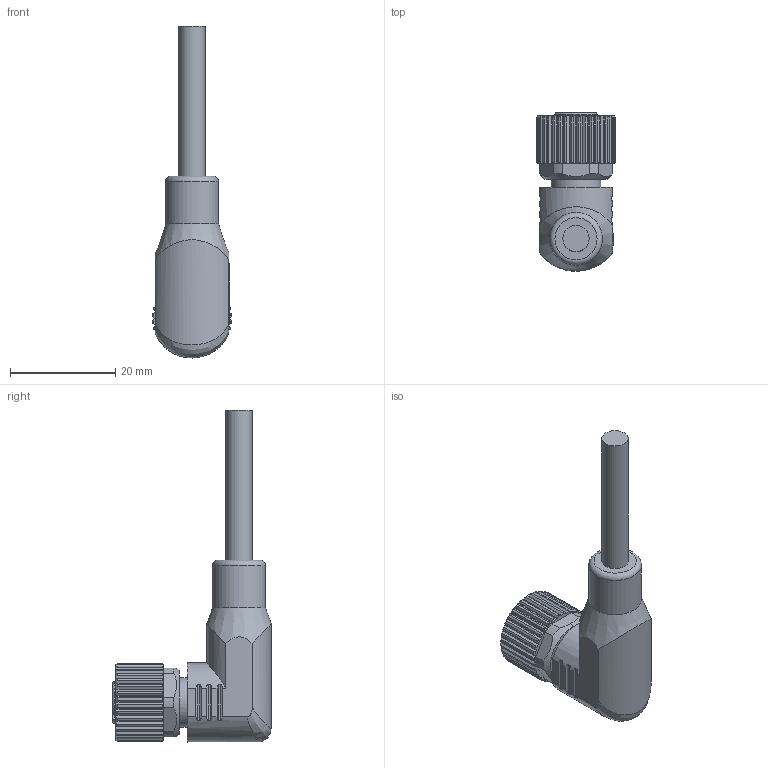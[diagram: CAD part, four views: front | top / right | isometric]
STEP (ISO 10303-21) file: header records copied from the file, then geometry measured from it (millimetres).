
FILE_DESCRIPTION(/* description */ (''),/* implementation_level */ '2;1');
FILE_NAME(/* name */ 'M12-5FR.P-L.stp',/* time_stamp */ '2021-08-20T16:39:08+08:00',/* author */ (''),/* organization */ (''),/* preprocessor_version */ 'ST-DEVELOPER v16.7',/* originating_system */ 'SIEMENS PLM Software NX 12.0',/* authorisation */ '');
FILE_SCHEMA (('AP203_CONFIGURATION_CONTROLLED_3D_DESIGN_OF_MECHANICAL_PARTS_AND_ASSEMBLIES_MIM_LF { 1 0 10303 403 2 1 2}'));
Length unit declared in the file: millimetre
Products named in the file (1): Admi4C4410C547xy
Bounding box: 14.98 x 30.05 x 63 mm (x, y, z)
Volume: 6862.8 mm3; surface area: 5198 mm2
Topology: 2 solids, 7 shells, 614 faces, 1733 edges, 1141 vertices
Faces by surface type: plane 237, cylinder 224, cone 113, extrusion 16, torus 13, bspline 11
Full cylindrical faces by diameter (mm): 1.2 x5, 2.1 x10, 5 x1, 9.4 x1, 10 x1, 10.8 x1, 12 x9
Entity records: 22284 total; most frequent: CARTESIAN_POINT 6843, ORIENTED_EDGE 3324, DIRECTION 3039, EDGE_CURVE 1662, VERTEX_POINT 1119, AXIS2_PLACEMENT_3D 1113, VECTOR 813, LINE 797
